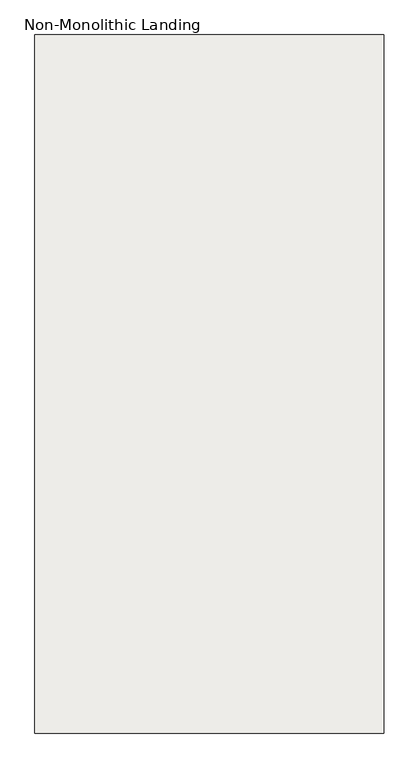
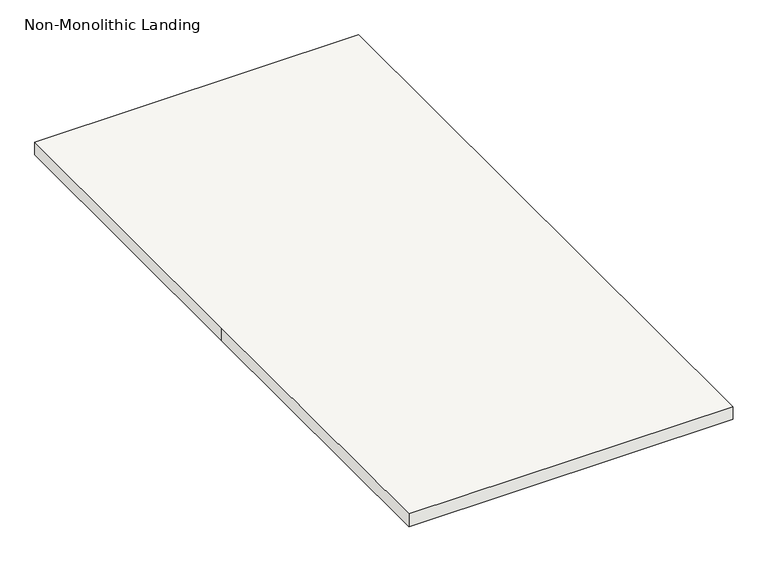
"""IFC4 building model written with IfcOpenShell, lengths in millimetres: slab geometry, Non-Monolithic Landing."""

import ifcopenshell
import ifcopenshell.guid

model = None  # the IFC model being written
_history = None  # IfcOwnerHistory: only IFC2X3 demands one
_inside = {}  # id of a spatial element -> (the spatial element, [elements in it])
_under = {}  # id of a project, library or spatial element -> (it, [spatial elements below it])
_declared = {}  # id of a project -> (the project, [libraries it declares])
_typed = {}  # id of a type object -> (the type object, [elements of that type])
_made_of = {}  # id of a material, layer set ... -> (it, [elements and type objects made of it])


def new_model(schema):
    """Start an empty IFC model of exactly this schema.

    Asked for "IFC4X3", IfcOpenShell would pick the latest addendum, in which some entities
    have other attributes; the version numbers below select the first issue.
    IFC2X3 requires an IfcOwnerHistory on every rooted entity: one is made here for all.
    """
    global model, _history
    if schema == "IFC4X3":
        model = ifcopenshell.file(schema_version=(4, 3, 0, 0))
    else:
        model = ifcopenshell.file(schema=schema)
    _inside.clear()
    _under.clear()
    _declared.clear()
    _typed.clear()
    _made_of.clear()
    _history = None
    if model.schema == "IFC2X3":
        org = make("IfcOrganization", Name="unknown")
        user = make(
            "IfcPersonAndOrganization",
            ThePerson=make("IfcPerson", FamilyName="unknown"),
            TheOrganization=org,
        )
        app = make(
            "IfcApplication",
            ApplicationDeveloper=org,
            Version="unknown",
            ApplicationFullName="unknown",
            ApplicationIdentifier="unknown",
        )
        _history = make(
            "IfcOwnerHistory",
            OwningUser=user,
            OwningApplication=app,
            ChangeAction="ADDED",
            CreationDate=0,
        )
    return model


def make(cls, **values):
    """One entity of the class cls with the attributes given. An attribute that is None is left unset."""
    return model.create_entity(
        cls, **{name: value for name, value in values.items() if value is not None}
    )


def rooted(cls, **values):
    """An entity with a GlobalId (a new one), such as an element, a storey or a relation."""
    return make(cls, GlobalId=ifcopenshell.guid.new(), OwnerHistory=_history, **values)


def si_unit(unit_type, name, prefix=None):
    """IfcSIUnit, for example si_unit("LENGTHUNIT", "METRE", prefix="MILLI")."""
    return make("IfcSIUnit", UnitType=unit_type, Prefix=prefix, Name=name)


def assignment(units):
    """IfcUnitAssignment: the units of a project."""
    return None if units is None else make("IfcUnitAssignment", Units=units)


def point(xyz):
    """IfcCartesianPoint."""
    return None if xyz is None else make("IfcCartesianPoint", Coordinates=xyz)


def direction(xyz):
    """IfcDirection."""
    return None if xyz is None else make("IfcDirection", DirectionRatios=xyz)


def frame(location, z_axis=None, x_axis=None):
    """IfcAxis2Placement3D, a coordinate frame: its origin and axes. An axis left out is left unset."""
    return make(
        "IfcAxis2Placement3D",
        Location=point(location),
        Axis=direction(z_axis),
        RefDirection=direction(x_axis),
    )


def origin():
    """The frame at (0, 0, 0) with its axes left unset."""
    return frame((0.0, 0.0, 0.0))


def place(relative_to, where):
    """IfcLocalPlacement: puts the frame where relative to a parent placement (None: the world)."""
    return make(
        "IfcLocalPlacement", PlacementRelTo=relative_to, RelativePlacement=where
    )


def context(
    kind, dimensions, precision=None, world=None, true_north=None, identifier=None
):
    """IfcGeometricRepresentationContext, for example the 3D "Model" context."""
    return make(
        "IfcGeometricRepresentationContext",
        ContextIdentifier=identifier,
        ContextType=kind,
        CoordinateSpaceDimension=dimensions,
        Precision=precision,
        WorldCoordinateSystem=world,
        TrueNorth=true_north,
    )


def project(units=None, contexts=None):
    """IfcProject with its units and contexts."""
    return rooted(
        "IfcProject",
        Name="project",
        RepresentationContexts=contexts,
        UnitsInContext=assignment(units),
    )


def spatial(cls, under=None, at=None, **own):
    """A site, building, storey or space (cls), placed at a placement, below another one or the project."""
    s = rooted(cls, ObjectPlacement=at, **own)
    if under is not None:
        _under.setdefault(under.id(), (under, []))[1].append(s)
    return s


def polyline(points):
    """IfcPolyline through the points."""
    return make("IfcPolyline", Points=[point(p) for p in points])


def outline(outer, holes=None, kind="AREA"):
    """IfcArbitraryClosedProfileDef: a profile drawn as a closed curve; with holes, ...WithVoids."""
    if holes is None:
        return make("IfcArbitraryClosedProfileDef", ProfileType=kind, OuterCurve=outer)
    return make(
        "IfcArbitraryProfileDefWithVoids",
        ProfileType=kind,
        OuterCurve=outer,
        InnerCurves=holes,
    )


def extrude(swept, where, along, depth):
    """IfcExtrudedAreaSolid: the profile swept, set in the frame where, extruded along a direction by depth."""
    return make(
        "IfcExtrudedAreaSolid",
        SweptArea=swept,
        Position=where,
        ExtrudedDirection=direction(along),
        Depth=depth,
    )


def shape(context_of_items, identifier, shape_type, items):
    """IfcShapeRepresentation: the items that make up one representation, for example the "Body"."""
    return make(
        "IfcShapeRepresentation",
        ContextOfItems=context_of_items,
        RepresentationIdentifier=identifier,
        RepresentationType=shape_type,
        Items=items,
    )


def source(mapping_origin, context_of_items, identifier, shape_type, items):
    """IfcRepresentationMap: a shape defined once, which mapped items show again and again."""
    return make(
        "IfcRepresentationMap",
        MappingOrigin=mapping_origin,
        MappedRepresentation=shape(context_of_items, identifier, shape_type, items),
    )


def transform(
    local_origin,
    x_axis=None,
    y_axis=None,
    z_axis=None,
    scale=None,
    scale2=None,
    scale3=None,
    uniform=True,
):
    """IfcCartesianTransformationOperator3D, or its non-uniform kind. x_axis, y_axis, z_axis: its Axis1, 2, 3."""
    if uniform:
        return make(
            "IfcCartesianTransformationOperator3D",
            Axis1=direction(x_axis),
            Axis2=direction(y_axis),
            LocalOrigin=point(local_origin),
            Scale=scale,
            Axis3=direction(z_axis),
        )
    return make(
        "IfcCartesianTransformationOperator3DnonUniform",
        Axis1=direction(x_axis),
        Axis2=direction(y_axis),
        LocalOrigin=point(local_origin),
        Scale=scale,
        Axis3=direction(z_axis),
        Scale2=scale2,
        Scale3=scale3,
    )


def mapped(mapping_source, mapping_target):
    """IfcMappedItem: shows the shape of a source again, moved by a transform."""
    return make(
        "IfcMappedItem", MappingSource=mapping_source, MappingTarget=mapping_target
    )


def made_of(thing, what):
    """Note that an element or type object is made of a material, layer set ...; save() writes the relation."""
    if what is not None:
        _made_of.setdefault(what.id(), (what, []))[1].append(thing)
    return thing


def element(
    cls,
    number,
    at=None,
    inside=None,
    cuts=None,
    type_object=None,
    material=None,
    context=None,
    identifier="Body",
    shape_type=None,
    held_by="IfcProductDefinitionShape",
    body=None,
    shapes=None,
    **own,
):
    """One element of the class cls, such as IfcWall. Its Tag is "e" and its number.

    at: its placement. inside: the storey or other place that contains it. cuts: it is an
    opening in that element (IfcRelVoidsElement). A single representation is given by context,
    identifier, shape_type and body (its items); several are given by shapes. held_by: the class
    of the entity that holds the representations. save() writes the other relations.
    """
    e = rooted(cls, Tag="e%d" % number, ObjectPlacement=at, **own)
    if body is not None:
        shapes = [shape(context, identifier, shape_type, body)]
    if shapes is not None:
        e.Representation = make(held_by, Representations=shapes)
    if inside is not None:
        _inside.setdefault(inside.id(), (inside, []))[1].append(e)
    if cuts is not None:
        rooted(
            "IfcRelVoidsElement", RelatingBuildingElement=cuts, RelatedOpeningElement=e
        )
    if type_object is not None:
        _typed.setdefault(type_object.id(), (type_object, []))[1].append(e)
    return made_of(e, material)


def aggregate(whole, parts):
    """IfcRelAggregates: a whole, such as a stair, and the parts it consists of."""
    return rooted("IfcRelAggregates", RelatingObject=whole, RelatedObjects=parts)


def save(model, path):
    """Write the relations noted so far, then the file.

    IfcRelAggregates (storeys below a building ...), IfcRelContainedInSpatialStructure (elements
    in a storey), IfcRelDefinesByType, IfcRelAssociatesMaterial and IfcRelDeclares: one each for
    every whole, place, type object, material and project.
    """
    for whole, parts in _under.values():
        aggregate(whole, parts)
    for where, things in _inside.values():
        rooted(
            "IfcRelContainedInSpatialStructure",
            RelatedElements=things,
            RelatingStructure=where,
        )
    for kind, things in _typed.values():
        rooted("IfcRelDefinesByType", RelatedObjects=things, RelatingType=kind)
    for what, things in _made_of.values():
        rooted("IfcRelAssociatesMaterial", RelatedObjects=things, RelatingMaterial=what)
    for by, libraries in _declared.values():
        rooted("IfcRelDeclares", RelatingContext=by, RelatedDefinitions=libraries)
    model.write(path)


def non_monolithic_landing_4fb2c556(model_context):
    return source(origin(), model_context, "Body", "SweptSolid", [
        extrude(outline(polyline([(-75798.5913038, 14592.1710387), (-74598.5913038, 14592.1710387), (-74598.5913038, 12192.1710387), (-75798.5913038, 12192.1710387), (-75798.5913038, 13392.1710387), (-75798.5913038, 14592.1710387)])), frame((0.0, 0.0, 46612.5), z_axis=(0.0, 0.0, 1.0), x_axis=(1.0, 0.0, 0.0)), (0.0, 0.0, 1.0), 50.0),
    ])


if __name__ == "__main__":
    model = new_model("IFC4")
    model_context = context("Model", 3, world=origin())
    ifc_project = project(units=[si_unit("LENGTHUNIT", "METRE", prefix="MILLI")], contexts=[model_context])
    site = spatial("IfcSite", under=ifc_project)
    building = spatial("IfcBuilding", under=site)
    placement = place(None, origin())
    non_monolithic_landing_shape = non_monolithic_landing_4fb2c556(model_context)
    element("IfcSlab", 1, ObjectType="Non-Monolithic Landing", at=placement, inside=building, context=model_context, shape_type="MappedRepresentation", body=[
        mapped(non_monolithic_landing_shape, transform((0.0, 0.0, 0.0), x_axis=(1.0, 0.0, 0.0), y_axis=(0.0, 1.0, 0.0), z_axis=(0.0, 0.0, 1.0))),
    ])
    save(model, "model.ifc")
